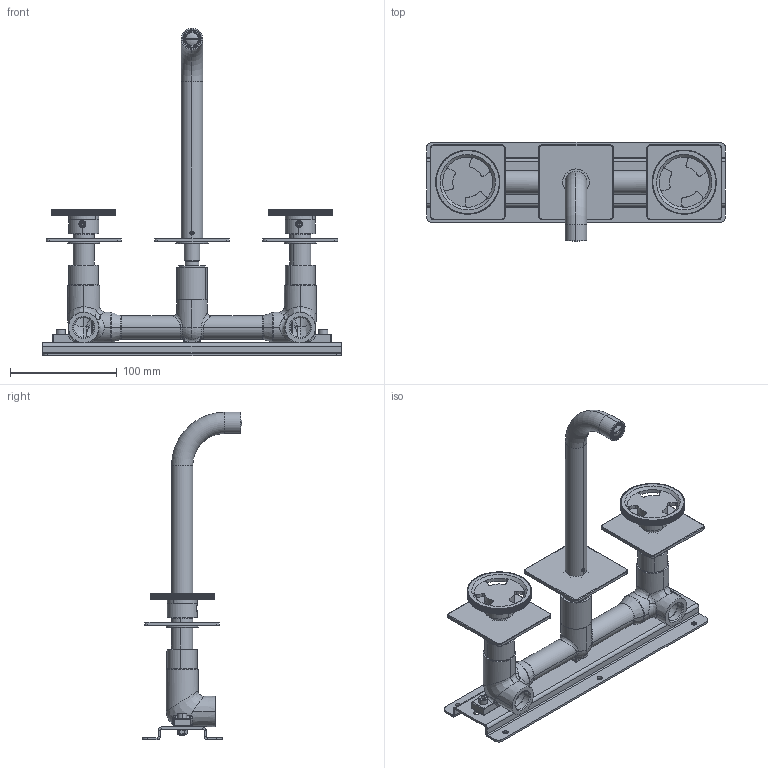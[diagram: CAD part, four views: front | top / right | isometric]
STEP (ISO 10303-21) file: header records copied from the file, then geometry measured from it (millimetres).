
FILE_DESCRIPTION (( 'STEP AP203' ), '1' );
FILE_NAME ('TBN57.STEP', '2023-11-24T14:11:08', ( '' ), ( '' ), 'SwSTEP 2.0', 'SolidWorks 2021', '' );
FILE_SCHEMA (( 'CONFIG_CONTROL_DESIGN' ));
Length unit declared in the file: millimetre
Products named in the file (22): C12.00.0051; C24.1896.00.0; C24.1464.00.1; C24.1474.00.1; C21.1428.00.0; C11.11.0009; C24.2659.00; C34.00.0017; TBN57; C24.1931.00.0; ISN56; C12.00.0020; AS542_00; C11.10.0018; C18.27.0000; C34.00.0018; C25.2102.00.1; C12.00.0008; C24.1955.00.1; C13.00.0043; C11.14.0003; C11.12.0020
Assembly tree (32 placements, depth 3):
  TBN57
    C24.1931.00.0
    C13.00.0043
    C11.14.0003
    ISN56
      C24.1955.00.1
      C34.00.0018
      C34.00.0017
      C12.00.0008
      C12.00.0051  x3
      C21.1428.00.0
      C18.27.0000
      C25.2102.00.1
      C11.10.0018  x2
      C11.12.0020  x2
      C11.11.0009  x2
    AS542_00  x2
      C24.1474.00.1
      C24.1464.00.1
    C12.00.0020  x3
    C24.1896.00.0  x2
    C24.2659.00  x3
Bounding box: 280 x 93.49 x 307 mm (x, y, z)
Volume: 316358.4 mm3; surface area: 234009.3 mm2
Topology: 32 solids, 34 shells, 2973 faces, 7907 edges, 5067 vertices
Faces by surface type: plane 1486, cylinder 1002, torus 185, bspline 142, cone 136, sphere 22
Entity records: 76047 total; most frequent: CARTESIAN_POINT 22913, ORIENTED_EDGE 10672, DIRECTION 10578, EDGE_CURVE 5336, AXIS2_PLACEMENT_3D 3721, VERTEX_POINT 3393, LINE 3136, VECTOR 3136
